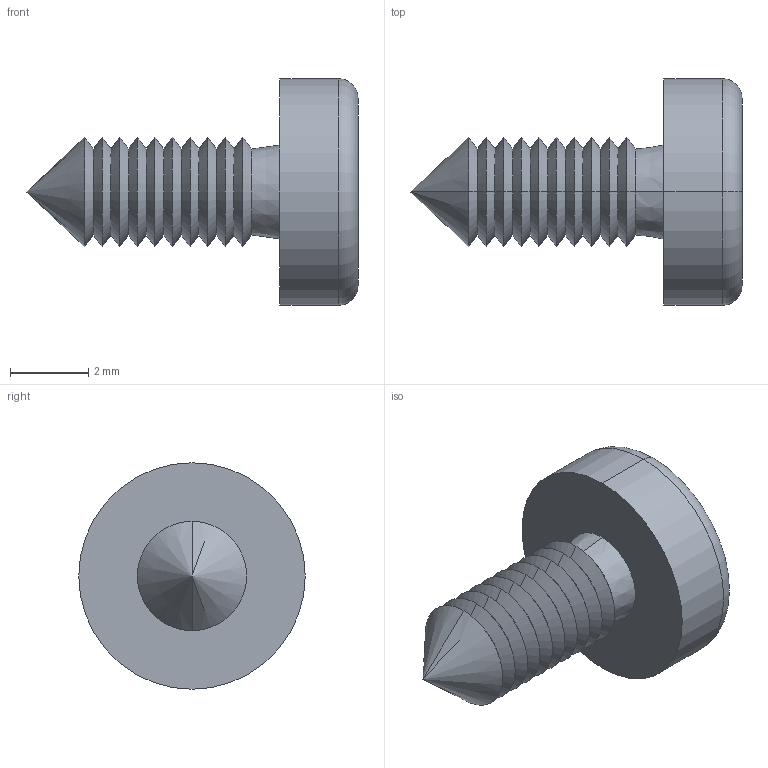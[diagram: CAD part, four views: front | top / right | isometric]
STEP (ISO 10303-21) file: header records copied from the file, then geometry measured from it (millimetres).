
FILE_DESCRIPTION (( 'STEP AP214' ), '1' );
FILE_NAME ('Cargol 2,8x8,5.STEP', '2016-09-22T09:34:20', ( 'aaa' ), ( '' ), 'SwSTEP 2.0', 'SolidWorks 2013', '' );
FILE_SCHEMA (( 'AUTOMOTIVE_DESIGN' ));
Length unit declared in the file: millimetre
Products named in the file (1): Cargol 2,8x8,5
Bounding box: 8.5 x 5.8 x 5.8 mm (x, y, z)
Volume: 78.3 mm3; surface area: 154.5 mm2
Topology: 1 solids, 1 shells, 61 faces, 132 edges, 73 vertices
Faces by surface type: cone 42, plane 15, torus 2, cylinder 2
Entity records: 1640 total; most frequent: DIRECTION 304, CARTESIAN_POINT 265, ORIENTED_EDGE 260, EDGE_CURVE 130, AXIS2_PLACEMENT_3D 112, VECTOR 80, LINE 80, VERTEX_POINT 73
